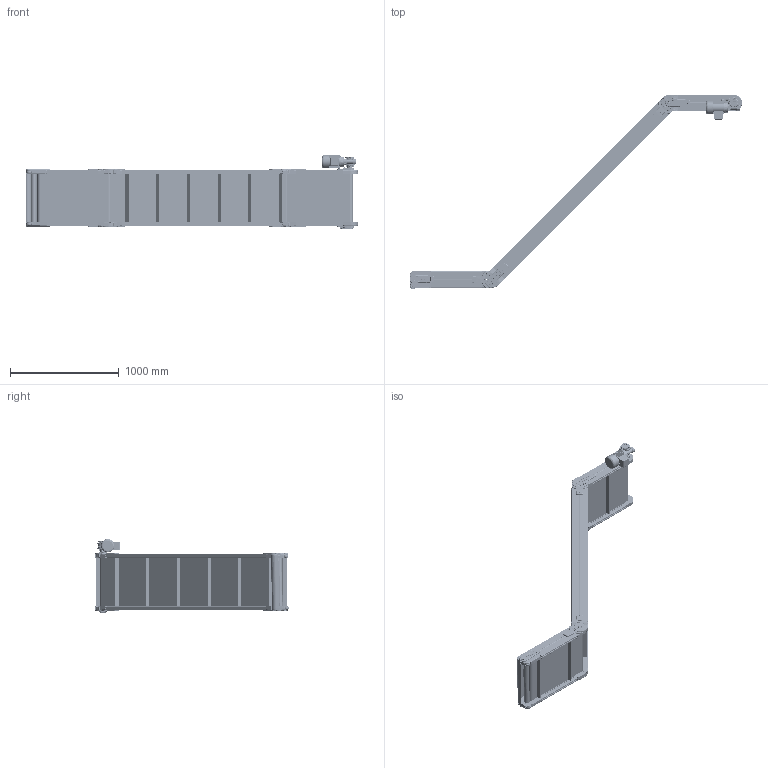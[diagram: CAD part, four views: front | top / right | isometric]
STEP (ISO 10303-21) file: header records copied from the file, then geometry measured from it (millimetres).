
FILE_DESCRIPTION (( 'STEP AP203' ), '1' );
FILE_NAME ('NASTRO_STAMPAGGIO_PLASTICA.step', '2026-04-28T09:56:50', ( 'Utente Windows' ), ( '' ), 'SwSTEP 2.0', 'SolidWorks 2024', '' );
FILE_SCHEMA (( 'CONFIG_CONTROL_DESIGN' ));
Length unit declared in the file: millimetre
Products named in the file (62): 084.302.016; 0412TRSEA2; VITI TESTA BOMBATA ISO 730_1016UNI7380; CH04P_DX; 084.831.005_L; 084.831.013; VITI TESTA BOMBATA ISO 730_0825UNI7380; 084.831.023; VITI TESTA BOMBATA ISO 730_0816UNI7380; 084.802.034_084.802.034; 084.831.014; 084.831.012_Default<A macchina>; 361102 serie 36; 084.802.062; CHIAVETTE_A 6x6x60 UNI 6604-69; 084.831.010_Default<A macchina>; CUSCINETTI A SFERE_6001-2RS; 084.831.009; 084.831.022; 084.802.061; 084.302.038_084.302.004; 084.802.071; VITI TE UNI 5739_M6x100 UNI 5739; TELAIO_Z_Default<A macchina>; VITI TE UNI 5739_M6x16 UNI 5739; 084.831.021; RONDELLE UNI 6592_8.4x17 UNI 6592; 084.831.KI.450; 084.831.044; 12UNI7435; LAMIERA_T3; 084.831.040.450; 084.831.020.500; RONDELLE UNI 6592_10.5x21 UNI 6592; 084.831.KD.44.450_DX; 084.808.012; 084.831.024; 084.831.015; VITI TCEI UNI 5931_M5x12 UNI 5931; 084.831.002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
Assembly tree (156 placements, depth 4):
  NASTRO_STAMPAGGIO_PLASTICA
    TAPPETO_Z
    TELAIO_Z_Default<A macchina>
    084.831.KD.44.450_DX
      084.831.004  x2
      084.831.020.500
      084.831.017  x2
      084.802.071
      084.301.000 VITI ALUSIC_084.301.003
      084.802.034_084.802.034  x2
      084.802.061
      VITI TE UNI 5739_M6x16 UNI 5739  x5
      CHIAVETTE_A 6x6x60 UNI 6604-69
      RONDELLE FASCIA LARGA UNI 6593_6.4x24 UNI 6593
      084.808.012
      RONDELLE UNI 6592_8.4x17 UNI 6592
      084.802.062
      084.803.018
      0412TRSEA2  x10
      VITI TCEI UNI 5931_M5x12 UNI 5931  x4
      084.302.038_084.302.004  x2
      VITI TE UNI 5739_M8x35 UNI 5739
    084.831.KI.450
      084.831.001_Default<A macchina>  x2
      084.831.024  x2
      361102 serie 36  x2
      VITI TE UNI 5739_M6x100 UNI 5739
      RONDELLE UNI 6592_6.4x12.5 UNI 6592  x2
      VITI TE UNI 5739_M6x120 UNI5739
      084.301.000 VITI ALUSIC_084.301.003  x2
      084.831.044
      084.831.040.450
      084.831.023  x2
      084.831.018.500
      0412TRSEA2  x12
    084.831.KA_450_B  x2
      084.831.003
      084.302.016
      084.301.000 VITI ALUSIC_084.301.003
      084.831.021
      084.831.009
      084.831.014
      084.831.016
      084.831.011
      084.831.005
        084.831.005_L
        CUSCINETTI A SFERE_6001-2RS
      0412TRSEA2
      12UNI7435
    084.831.KA.450_A  x2
      084.831.002
      084.302.016
      084.831.019.500
      084.301.000 VITI ALUSIC_084.301.003
      RONDELLE FASCIA LARGA UNI 6593_8.4x24 UNI 6593
      084.831.005
        084.831.005_L
        CUSCINETTI A SFERE_6001-2RS
      084.831.021
      084.831.010_Default<A macchina>
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Bounding box: 3055.32 x 1790.42 x 680.2 mm (x, y, z)
Volume: 26181305.5 mm3; surface area: 21448310.3 mm2
Topology: 292 solids, 301 shells, 30478 faces, 81100 edges, 51873 vertices
Faces by surface type: plane 14123, cylinder 8041, bspline 3617, cone 3032, torus 1257, sphere 408
Entity records: 495775 total; most frequent: CARTESIAN_POINT 158692, ORIENTED_EDGE 73522, DIRECTION 63048, EDGE_CURVE 36761, VERTEX_POINT 23707, AXIS2_PLACEMENT_3D 21386, LINE 20276, VECTOR 20276
